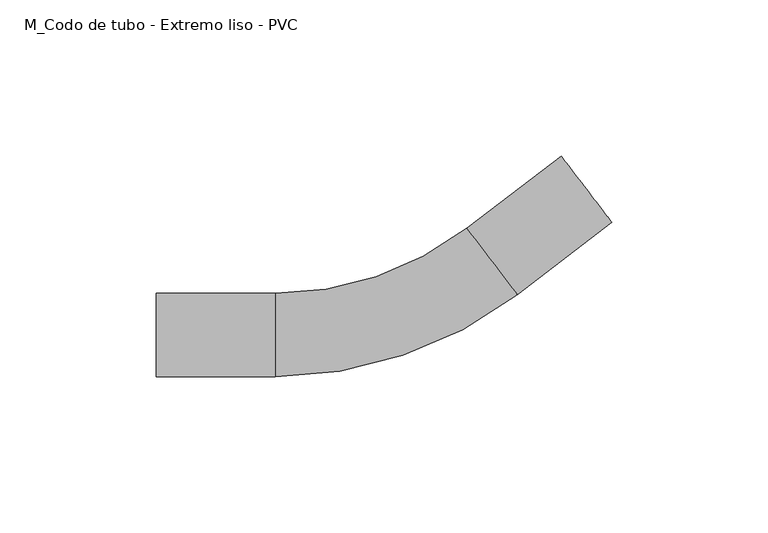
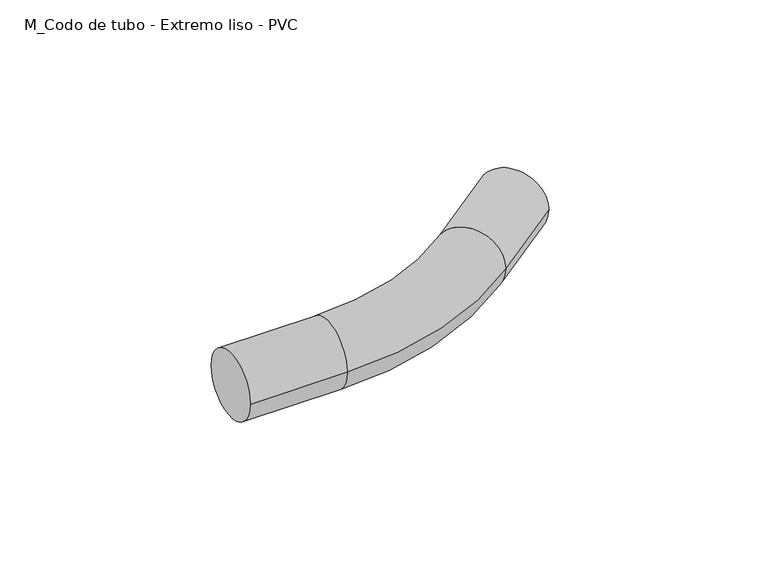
"""IFC4 building model written with IfcOpenShell, lengths in millimetres: cable carrier fitting geometry, M_Codo de tubo - Extremo liso - PVC : CODO POTENCIA."""

import ifcopenshell
import ifcopenshell.guid

model = None  # the IFC model being written
_history = None  # IfcOwnerHistory: only IFC2X3 demands one
_inside = {}  # id of a spatial element -> (the spatial element, [elements in it])
_under = {}  # id of a project, library or spatial element -> (it, [spatial elements below it])
_declared = {}  # id of a project -> (the project, [libraries it declares])
_typed = {}  # id of a type object -> (the type object, [elements of that type])
_made_of = {}  # id of a material, layer set ... -> (it, [elements and type objects made of it])


def new_model(schema):
    """Start an empty IFC model of exactly this schema.

    Asked for "IFC4X3", IfcOpenShell would pick the latest addendum, in which some entities
    have other attributes; the version numbers below select the first issue.
    IFC2X3 requires an IfcOwnerHistory on every rooted entity: one is made here for all.
    """
    global model, _history
    if schema == "IFC4X3":
        model = ifcopenshell.file(schema_version=(4, 3, 0, 0))
    else:
        model = ifcopenshell.file(schema=schema)
    _inside.clear()
    _under.clear()
    _declared.clear()
    _typed.clear()
    _made_of.clear()
    _history = None
    if model.schema == "IFC2X3":
        org = make("IfcOrganization", Name="unknown")
        user = make(
            "IfcPersonAndOrganization",
            ThePerson=make("IfcPerson", FamilyName="unknown"),
            TheOrganization=org,
        )
        app = make(
            "IfcApplication",
            ApplicationDeveloper=org,
            Version="unknown",
            ApplicationFullName="unknown",
            ApplicationIdentifier="unknown",
        )
        _history = make(
            "IfcOwnerHistory",
            OwningUser=user,
            OwningApplication=app,
            ChangeAction="ADDED",
            CreationDate=0,
        )
    return model


def make(cls, **values):
    """One entity of the class cls with the attributes given. An attribute that is None is left unset."""
    return model.create_entity(
        cls, **{name: value for name, value in values.items() if value is not None}
    )


def rooted(cls, **values):
    """An entity with a GlobalId (a new one), such as an element, a storey or a relation."""
    return make(cls, GlobalId=ifcopenshell.guid.new(), OwnerHistory=_history, **values)


def si_unit(unit_type, name, prefix=None):
    """IfcSIUnit, for example si_unit("LENGTHUNIT", "METRE", prefix="MILLI")."""
    return make("IfcSIUnit", UnitType=unit_type, Prefix=prefix, Name=name)


def assignment(units):
    """IfcUnitAssignment: the units of a project."""
    return None if units is None else make("IfcUnitAssignment", Units=units)


def point(xyz):
    """IfcCartesianPoint."""
    return None if xyz is None else make("IfcCartesianPoint", Coordinates=xyz)


def direction(xyz):
    """IfcDirection."""
    return None if xyz is None else make("IfcDirection", DirectionRatios=xyz)


def frame(location, z_axis=None, x_axis=None):
    """IfcAxis2Placement3D, a coordinate frame: its origin and axes. An axis left out is left unset."""
    return make(
        "IfcAxis2Placement3D",
        Location=point(location),
        Axis=direction(z_axis),
        RefDirection=direction(x_axis),
    )


def origin():
    """The frame at (0, 0, 0) with its axes left unset."""
    return frame((0.0, 0.0, 0.0))


def place(relative_to, where):
    """IfcLocalPlacement: puts the frame where relative to a parent placement (None: the world)."""
    return make(
        "IfcLocalPlacement", PlacementRelTo=relative_to, RelativePlacement=where
    )


def context(
    kind, dimensions, precision=None, world=None, true_north=None, identifier=None
):
    """IfcGeometricRepresentationContext, for example the 3D "Model" context."""
    return make(
        "IfcGeometricRepresentationContext",
        ContextIdentifier=identifier,
        ContextType=kind,
        CoordinateSpaceDimension=dimensions,
        Precision=precision,
        WorldCoordinateSystem=world,
        TrueNorth=true_north,
    )


def project(units=None, contexts=None):
    """IfcProject with its units and contexts."""
    return rooted(
        "IfcProject",
        Name="project",
        RepresentationContexts=contexts,
        UnitsInContext=assignment(units),
    )


def spatial(cls, under=None, at=None, **own):
    """A site, building, storey or space (cls), placed at a placement, below another one or the project."""
    s = rooted(cls, ObjectPlacement=at, **own)
    if under is not None:
        _under.setdefault(under.id(), (under, []))[1].append(s)
    return s


def circle_curve(where, radius):
    """IfcCircle in the frame where."""
    return make("IfcCircle", Position=where, Radius=radius)


def ellipse_curve(where, semi_axis1, semi_axis2):
    """IfcEllipse in the frame where."""
    return make(
        "IfcEllipse", Position=where, SemiAxis1=semi_axis1, SemiAxis2=semi_axis2
    )


def trimmed(basis, trim1, trim2, sense, master):
    """IfcTrimmedCurve: the piece of a basis curve between two trims."""
    return make(
        "IfcTrimmedCurve",
        BasisCurve=basis,
        Trim1=trim1,
        Trim2=trim2,
        SenseAgreement=sense,
        MasterRepresentation=master,
    )


def shape(context_of_items, identifier, shape_type, items):
    """IfcShapeRepresentation: the items that make up one representation, for example the "Body"."""
    return make(
        "IfcShapeRepresentation",
        ContextOfItems=context_of_items,
        RepresentationIdentifier=identifier,
        RepresentationType=shape_type,
        Items=items,
    )


def source(mapping_origin, context_of_items, identifier, shape_type, items):
    """IfcRepresentationMap: a shape defined once, which mapped items show again and again."""
    return make(
        "IfcRepresentationMap",
        MappingOrigin=mapping_origin,
        MappedRepresentation=shape(context_of_items, identifier, shape_type, items),
    )


def transform(
    local_origin,
    x_axis=None,
    y_axis=None,
    z_axis=None,
    scale=None,
    scale2=None,
    scale3=None,
    uniform=True,
):
    """IfcCartesianTransformationOperator3D, or its non-uniform kind. x_axis, y_axis, z_axis: its Axis1, 2, 3."""
    if uniform:
        return make(
            "IfcCartesianTransformationOperator3D",
            Axis1=direction(x_axis),
            Axis2=direction(y_axis),
            LocalOrigin=point(local_origin),
            Scale=scale,
            Axis3=direction(z_axis),
        )
    return make(
        "IfcCartesianTransformationOperator3DnonUniform",
        Axis1=direction(x_axis),
        Axis2=direction(y_axis),
        LocalOrigin=point(local_origin),
        Scale=scale,
        Axis3=direction(z_axis),
        Scale2=scale2,
        Scale3=scale3,
    )


def mapped(mapping_source, mapping_target):
    """IfcMappedItem: shows the shape of a source again, moved by a transform."""
    return make(
        "IfcMappedItem", MappingSource=mapping_source, MappingTarget=mapping_target
    )


def made_of(thing, what):
    """Note that an element or type object is made of a material, layer set ...; save() writes the relation."""
    if what is not None:
        _made_of.setdefault(what.id(), (what, []))[1].append(thing)
    return thing


def element(
    cls,
    number,
    at=None,
    inside=None,
    cuts=None,
    type_object=None,
    material=None,
    context=None,
    identifier="Body",
    shape_type=None,
    held_by="IfcProductDefinitionShape",
    body=None,
    shapes=None,
    **own,
):
    """One element of the class cls, such as IfcWall. Its Tag is "e" and its number.

    at: its placement. inside: the storey or other place that contains it. cuts: it is an
    opening in that element (IfcRelVoidsElement). A single representation is given by context,
    identifier, shape_type and body (its items); several are given by shapes. held_by: the class
    of the entity that holds the representations. save() writes the other relations.
    """
    e = rooted(cls, Tag="e%d" % number, ObjectPlacement=at, **own)
    if body is not None:
        shapes = [shape(context, identifier, shape_type, body)]
    if shapes is not None:
        e.Representation = make(held_by, Representations=shapes)
    if inside is not None:
        _inside.setdefault(inside.id(), (inside, []))[1].append(e)
    if cuts is not None:
        rooted(
            "IfcRelVoidsElement", RelatingBuildingElement=cuts, RelatedOpeningElement=e
        )
    if type_object is not None:
        _typed.setdefault(type_object.id(), (type_object, []))[1].append(e)
    return made_of(e, material)


def aggregate(whole, parts):
    """IfcRelAggregates: a whole, such as a stair, and the parts it consists of."""
    return rooted("IfcRelAggregates", RelatingObject=whole, RelatedObjects=parts)


def save(model, path):
    """Write the relations noted so far, then the file.

    IfcRelAggregates (storeys below a building ...), IfcRelContainedInSpatialStructure (elements
    in a storey), IfcRelDefinesByType, IfcRelAssociatesMaterial and IfcRelDeclares: one each for
    every whole, place, type object, material and project.
    """
    for whole, parts in _under.values():
        aggregate(whole, parts)
    for where, things in _inside.values():
        rooted(
            "IfcRelContainedInSpatialStructure",
            RelatedElements=things,
            RelatingStructure=where,
        )
    for kind, things in _typed.values():
        rooted("IfcRelDefinesByType", RelatedObjects=things, RelatingType=kind)
    for what, things in _made_of.values():
        rooted("IfcRelAssociatesMaterial", RelatedObjects=things, RelatingMaterial=what)
    for by, libraries in _declared.values():
        rooted("IfcRelDeclares", RelatingContext=by, RelatedDefinitions=libraries)
    model.write(path)


def plane_surface(at):
    """IfcPlane: the flat surface through the origin of the frame at, square to its z axis."""
    return make("IfcPlane", Position=at)


def cylinder_surface(at, radius):
    """IfcCylindricalSurface: all points at the distance radius from the z axis of the frame at."""
    return make("IfcCylindricalSurface", Position=at, Radius=radius)


def revolved_surface(curve, axis_point, axis_direction):
    """IfcSurfaceOfRevolution: the curve turned about the line through axis_point along axis_direction."""
    return make(
        "IfcSurfaceOfRevolution",
        SweptCurve=make("IfcArbitraryOpenProfileDef", ProfileType="CURVE", Curve=curve),
        AxisPosition=make("IfcAxis1Placement", Location=point(axis_point), Axis=direction(axis_direction)),
    )


def advanced_brep(points, edges, surfaces, faces):
    """IfcAdvancedBrep: a solid bounded by faces that lie on surfaces and meet in shared edges.

    An edge is (start, end): straight between two places in points (the first is 0);
    or (start, end, curve); or (start, end, curve, False) where it runs against its curve.
    A face is (place in surfaces, loops), or (place, loops, False) where it looks against
    its surface's normal. A loop lists edges by number (the first is 1), with a minus sign
    where the edge is run from its end to its start. The first loop is the outer one.
    """
    corners = [point(p) for p in points]
    vertices = [make("IfcVertexPoint", VertexGeometry=c) for c in corners]
    made = []
    for start, end, *more in edges:
        made.append(
            make(
                "IfcEdgeCurve",
                EdgeStart=vertices[start],
                EdgeEnd=vertices[end],
                EdgeGeometry=more[0] if more else make("IfcPolyline", Points=[corners[start], corners[end]]),
                SameSense=more[1] if len(more) > 1 else True,
            )
        )
    hull = []
    for where, loops, *sense in faces:
        bounds = []
        for j, loop in enumerate(loops):
            ring = [make("IfcOrientedEdge", EdgeElement=made[abs(k) - 1], Orientation=k > 0) for k in loop]
            bounds.append(
                make(
                    "IfcFaceOuterBound" if j == 0 else "IfcFaceBound",
                    Bound=make("IfcEdgeLoop", EdgeList=ring),
                    Orientation=True,
                )
            )
        hull.append(make("IfcAdvancedFace", Bounds=bounds, FaceSurface=surfaces[where], SameSense=sense[0] if sense else True))
    return make("IfcAdvancedBrep", Outer=make("IfcClosedShell", CfsFaces=hull))


def m_codo_de_tubo_extremo_liso_pvc_a9b8cca8(model_context):
    return source(origin(), model_context, "Body", "AdvancedBrep", [
        advanced_brep(
        [(-76.7651191, -13.335, 0.0), (-76.7651191, 13.335, 0.0), (-38.6651191, -13.335, 0.0), (-38.6651191, 13.335, 0.0), (22.6292418, 34.0695036, 0.0), (38.820205, 12.8765423, 0.0), (69.095864, 36.0064898, 0.0), (52.9049008, 57.1994511, 0.0)],
        [
            (0, 1, circle_curve(frame((-76.7651191, 0.0, 0.0), z_axis=(-1.0, 0.0, 0.0), x_axis=(0.0, 1.0, 0.0)), 13.335)),
            (1, 0, circle_curve(frame((-76.7651191, 0.0, 0.0), z_axis=(-1.0, 0.0, 0.0), x_axis=(0.0, 1.0, 0.0)), 13.335)),
            (0, 2),
            (2, 3, circle_curve(frame((-38.6651191, 0.0, 0.0), z_axis=(-1.0, 0.0, 0.0), x_axis=(0.0, 1.0, 0.0)), 13.335)),
            (3, 1),
            (3, 2, circle_curve(frame((-38.6651191, 0.0, 0.0), z_axis=(-1.0, 0.0, 0.0), x_axis=(0.0, 1.0, 0.0)), 13.335)),
            (4, 3, circle_curve(frame((-38.6651191, 114.3, 0.0), z_axis=(0.0, 0.0, -1.0), x_axis=(0.0, -1.0, 0.0)), 100.965)),
            (2, 5, circle_curve(frame((-38.6651191, 114.3, 0.0), z_axis=(0.0, 0.0, 1.0), x_axis=(0.0, -1.0, 0.0)), 127.635)),
            (5, 4, circle_curve(frame((30.7247234, 23.4730229, 0.0), z_axis=(-0.794636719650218, -0.6070852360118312, 0.0), x_axis=(-0.6070852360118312, 0.794636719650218, 0.0)), 13.335)),
            (4, 5, circle_curve(frame((30.7247234, 23.4730229, 0.0), z_axis=(-0.7946367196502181, -0.6070852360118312, 0.0), x_axis=(-0.6070852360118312, 0.7946367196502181, 0.0)), 13.335)),
            (6, 7, circle_curve(frame((61.0003824, 46.6029704, 0.0), z_axis=(0.7946367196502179, 0.6070852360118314, 0.0), x_axis=(-0.6070852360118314, 0.7946367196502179, 0.0)), 13.335)),
            (7, 6, circle_curve(frame((61.0003824, 46.6029704, 0.0), z_axis=(0.7946367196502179, 0.6070852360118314, 0.0), x_axis=(-0.6070852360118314, 0.7946367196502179, 0.0)), 13.335)),
            (5, 6),
            (7, 4),
        ],
        [
            plane_surface(frame((-76.7651191, 0.0, 0.0), z_axis=(-1.0, 0.0, 0.0), x_axis=(0.0, 0.0, 1.0))),
            cylinder_surface(frame((-76.7651191, 0.0, 0.0), z_axis=(-1.0, 0.0, 0.0), x_axis=(0.0, 1.0, 0.0)), 13.335),
            revolved_surface(trimmed(ellipse_curve(frame((-38.6651191, 0.0, 0.0), z_axis=(-1.0, 0.0, 0.0), x_axis=(0.0, 1.0, 0.0)), 13.335, 13.335), [point((-38.6651191, -13.335, 0.0))], [point((-38.6651191, 13.335, 0.0))], True, "CARTESIAN"), (-38.6651191, 114.3, 0.0), (0.0, 0.0, 1.0)),
            revolved_surface(trimmed(ellipse_curve(frame((-38.6651191, 0.0, 0.0), z_axis=(-1.0, 0.0, 0.0), x_axis=(0.0, 1.0, 0.0)), 13.335, 13.335), [point((-38.6651191, 13.335, 0.0))], [point((-38.6651191, -13.335, 0.0))], True, "CARTESIAN"), (-38.6651191, 114.3, 0.0), (0.0, 0.0, 1.0)),
            plane_surface(frame((61.0003824, 46.6029704, 0.0), z_axis=(0.794636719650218, 0.6070852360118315, 0.0), x_axis=(0.0, 0.0, 1.0))),
            cylinder_surface(frame((30.7247234, 23.4730229, 0.0), z_axis=(-0.7946367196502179, -0.6070852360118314, 0.0), x_axis=(-0.6070852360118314, 0.7946367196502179, 0.0)), 13.335),
        ],
        [
            (0, [[1, 2]]),
            (1, [[-1, 3, 4, 5]]),
            (1, [[-2, -5, 6, -3]]),
            (2, [[7, -4, 8, 9]]),
            (3, [[-8, -6, -7, 10]]),
            (4, [[11, 12]]),
            (5, [[-9, 13, -12, 14]]),
            (5, [[-10, -14, -11, -13]]),
        ],
    ),
    ])


if __name__ == "__main__":
    model = new_model("IFC4")
    model_context = context("Model", 3, world=origin())
    ifc_project = project(units=[si_unit("LENGTHUNIT", "METRE", prefix="MILLI")], contexts=[model_context])
    site = spatial("IfcSite", under=ifc_project)
    building = spatial("IfcBuilding", under=site)
    placement = place(None, origin())
    m_codo_de_tubo_extremo_liso_pvc_shape = m_codo_de_tubo_extremo_liso_pvc_a9b8cca8(model_context)
    element("IfcCableCarrierFitting", 1, ObjectType="M_Codo de tubo - Extremo liso - PVC : CODO POTENCIA", at=placement, inside=building, context=model_context, shape_type="MappedRepresentation", body=[
        mapped(m_codo_de_tubo_extremo_liso_pvc_shape, transform((0.0, 0.0, 0.0), x_axis=(1.0, 0.0, 0.0), y_axis=(0.0, 1.0, 0.0), z_axis=(0.0, 0.0, 1.0))),
    ])
    save(model, "model.ifc")
